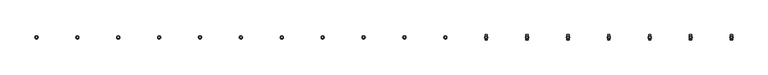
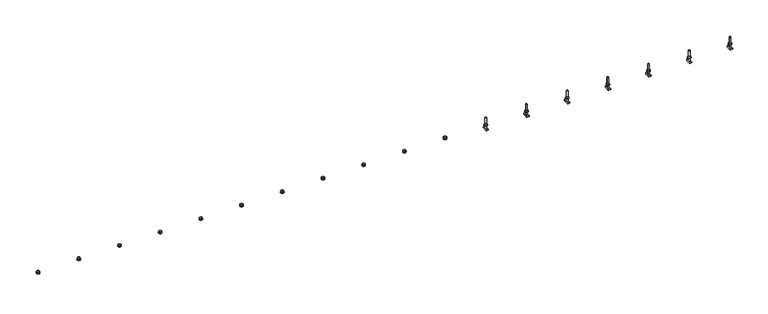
"""IFC4 building model written with IfcOpenShell, lengths in millimetres: fastener geometry, JTA-W JORDAHL® AnchorChannels : JTA-W L=6000 mm."""

from ifc_helpers import new_model, si_unit, point, frame, frame_2d, origin, place, context, project, spatial, polyline, circle_curve, trimmed, segment, composite_curve, outline, extrude, source, transform, mapped, element, save
from ifc_brep_helpers import plane_surface, cylinder_surface, advanced_brep


def fastener_254a00a1(model_context):
    return source(origin(), model_context, "Body", "SolidModel", [
        extrude(outline(polyline([(5617.1052632, -10.3923048), (5608.1052632, -5.1961524), (5608.1052632, 5.1961524), (5617.1052632, 10.3923048), (5626.1052632, 5.1961524), (5626.1052632, -5.1961524), (5617.1052632, -10.3923048)]), holes=[composite_curve([segment(trimmed(circle_curve(frame_2d((5617.1052632, 0.0)), 6.0), [point((5611.1052632, 0.0))], [point((5623.1052632, 0.0))], True, "CARTESIAN"), True, "CONTINUOUS"), segment(trimmed(circle_curve(frame_2d((5617.1052632, 0.0)), 6.0), [point((5623.1052632, 0.0))], [point((5611.1052632, 0.0))], True, "CARTESIAN"), True, "CONTINUOUS")], self_intersect=False)]), frame((0.0, 0.0, 17.5), z_axis=(0.0, 0.0, 1.0), x_axis=(1.0, 0.0, 0.0)), (0.0, 0.0, 1.0), 10.8),
        extrude(outline(composite_curve([segment(trimmed(circle_curve(frame_2d((5617.1052632, 0.0)), 12.0), [point((5605.1052632, 0.0))], [point((5629.1052632, 0.0))], False, "CARTESIAN"), True, "CONTINUOUS"), segment(trimmed(circle_curve(frame_2d((5617.1052632, 0.0)), 12.0), [point((5629.1052632, 0.0))], [point((5605.1052632, 0.0))], False, "CARTESIAN"), True, "CONTINUOUS")], self_intersect=False), holes=[composite_curve([segment(trimmed(circle_curve(frame_2d((5617.1052632, 0.0)), 6.5), [point((5610.6052632, 0.0))], [point((5623.6052632, 0.0))], True, "CARTESIAN"), True, "CONTINUOUS"), segment(trimmed(circle_curve(frame_2d((5617.1052632, 0.0)), 6.5), [point((5623.6052632, 0.0))], [point((5610.6052632, 0.0))], True, "CARTESIAN"), True, "CONTINUOUS")], self_intersect=False)]), frame((0.0, 0.0, 15.0), z_axis=(0.0, 0.0, 1.0), x_axis=(1.0, 0.0, 0.0)), (0.0, 0.0, 1.0), 2.5),
        extrude(outline(polyline([(5309.2105263, -10.3923048), (5300.2105263, -5.1961524), (5300.2105263, 5.1961524), (5309.2105263, 10.3923048), (5318.2105263, 5.1961524), (5318.2105263, -5.1961524), (5309.2105263, -10.3923048)]), holes=[composite_curve([segment(trimmed(circle_curve(frame_2d((5309.2105263, 0.0)), 6.0), [point((5303.2105263, 0.0))], [point((5315.2105263, 0.0))], True, "CARTESIAN"), True, "CONTINUOUS"), segment(trimmed(circle_curve(frame_2d((5309.2105263, 0.0)), 6.0), [point((5315.2105263, 0.0))], [point((5303.2105263, 0.0))], True, "CARTESIAN"), True, "CONTINUOUS")], self_intersect=False)]), frame((0.0, 0.0, 17.5), z_axis=(0.0, 0.0, 1.0), x_axis=(1.0, 0.0, 0.0)), (0.0, 0.0, 1.0), 10.8),
        extrude(outline(composite_curve([segment(trimmed(circle_curve(frame_2d((5309.2105263, 0.0)), 12.0), [point((5297.2105263, 0.0))], [point((5321.2105263, 0.0))], False, "CARTESIAN"), True, "CONTINUOUS"), segment(trimmed(circle_curve(frame_2d((5309.2105263, 0.0)), 12.0), [point((5321.2105263, 0.0))], [point((5297.2105263, 0.0))], False, "CARTESIAN"), True, "CONTINUOUS")], self_intersect=False), holes=[composite_curve([segment(trimmed(circle_curve(frame_2d((5309.2105263, 0.0)), 6.5), [point((5302.7105263, 0.0))], [point((5315.7105263, 0.0))], True, "CARTESIAN"), True, "CONTINUOUS"), segment(trimmed(circle_curve(frame_2d((5309.2105263, 0.0)), 6.5), [point((5315.7105263, 0.0))], [point((5302.7105263, 0.0))], True, "CARTESIAN"), True, "CONTINUOUS")], self_intersect=False)]), frame((0.0, 0.0, 15.0), z_axis=(0.0, 0.0, 1.0), x_axis=(1.0, 0.0, 0.0)), (0.0, 0.0, 1.0), 2.5),
        extrude(outline(polyline([(5001.3157895, -10.3923048), (4992.3157895, -5.1961524), (4992.3157895, 5.1961524), (5001.3157895, 10.3923048), (5010.3157895, 5.1961524), (5010.3157895, -5.1961524), (5001.3157895, -10.3923048)]), holes=[composite_curve([segment(trimmed(circle_curve(frame_2d((5001.3157895, 0.0)), 6.0), [point((4995.3157895, 0.0))], [point((5007.3157895, 0.0))], True, "CARTESIAN"), True, "CONTINUOUS"), segment(trimmed(circle_curve(frame_2d((5001.3157895, 0.0)), 6.0), [point((5007.3157895, 0.0))], [point((4995.3157895, 0.0))], True, "CARTESIAN"), True, "CONTINUOUS")], self_intersect=False)]), frame((0.0, 0.0, 17.5), z_axis=(0.0, 0.0, 1.0), x_axis=(1.0, 0.0, 0.0)), (0.0, 0.0, 1.0), 10.8),
        extrude(outline(composite_curve([segment(trimmed(circle_curve(frame_2d((5001.3157895, 0.0)), 12.0), [point((4989.3157895, 0.0))], [point((5013.3157895, 0.0))], False, "CARTESIAN"), True, "CONTINUOUS"), segment(trimmed(circle_curve(frame_2d((5001.3157895, 0.0)), 12.0), [point((5013.3157895, 0.0))], [point((4989.3157895, 0.0))], False, "CARTESIAN"), True, "CONTINUOUS")], self_intersect=False), holes=[composite_curve([segment(trimmed(circle_curve(frame_2d((5001.3157895, 0.0)), 6.5), [point((4994.8157895, 0.0))], [point((5007.8157895, 0.0))], True, "CARTESIAN"), True, "CONTINUOUS"), segment(trimmed(circle_curve(frame_2d((5001.3157895, 0.0)), 6.5), [point((5007.8157895, 0.0))], [point((4994.8157895, 0.0))], True, "CARTESIAN"), True, "CONTINUOUS")], self_intersect=False)]), frame((0.0, 0.0, 15.0), z_axis=(0.0, 0.0, 1.0), x_axis=(1.0, 0.0, 0.0)), (0.0, 0.0, 1.0), 2.5),
        extrude(outline(polyline([(4693.4210526, -10.3923048), (4684.4210526, -5.1961524), (4684.4210526, 5.1961524), (4693.4210526, 10.3923048), (4702.4210526, 5.1961524), (4702.4210526, -5.1961524), (4693.4210526, -10.3923048)]), holes=[composite_curve([segment(trimmed(circle_curve(frame_2d((4693.4210526, 0.0)), 6.0), [point((4687.4210526, 0.0))], [point((4699.4210526, 0.0))], True, "CARTESIAN"), True, "CONTINUOUS"), segment(trimmed(circle_curve(frame_2d((4693.4210526, 0.0)), 6.0), [point((4699.4210526, 0.0))], [point((4687.4210526, 0.0))], True, "CARTESIAN"), True, "CONTINUOUS")], self_intersect=False)]), frame((0.0, 0.0, 17.5), z_axis=(0.0, 0.0, 1.0), x_axis=(1.0, 0.0, 0.0)), (0.0, 0.0, 1.0), 10.8),
        extrude(outline(composite_curve([segment(trimmed(circle_curve(frame_2d((4693.4210526, 0.0)), 12.0), [point((4681.4210526, 0.0))], [point((4705.4210526, 0.0))], False, "CARTESIAN"), True, "CONTINUOUS"), segment(trimmed(circle_curve(frame_2d((4693.4210526, 0.0)), 12.0), [point((4705.4210526, 0.0))], [point((4681.4210526, 0.0))], False, "CARTESIAN"), True, "CONTINUOUS")], self_intersect=False), holes=[composite_curve([segment(trimmed(circle_curve(frame_2d((4693.4210526, 0.0)), 6.5), [point((4686.9210526, 0.0))], [point((4699.9210526, 0.0))], True, "CARTESIAN"), True, "CONTINUOUS"), segment(trimmed(circle_curve(frame_2d((4693.4210526, 0.0)), 6.5), [point((4699.9210526, 0.0))], [point((4686.9210526, 0.0))], True, "CARTESIAN"), True, "CONTINUOUS")], self_intersect=False)]), frame((0.0, 0.0, 15.0), z_axis=(0.0, 0.0, 1.0), x_axis=(1.0, 0.0, 0.0)), (0.0, 0.0, 1.0), 2.5),
        extrude(outline(polyline([(4385.5263158, -10.3923048), (4376.5263158, -5.1961524), (4376.5263158, 5.1961524), (4385.5263158, 10.3923048), (4394.5263158, 5.1961524), (4394.5263158, -5.1961524), (4385.5263158, -10.3923048)]), holes=[composite_curve([segment(trimmed(circle_curve(frame_2d((4385.5263158, 0.0)), 6.0), [point((4379.5263158, 0.0))], [point((4391.5263158, 0.0))], True, "CARTESIAN"), True, "CONTINUOUS"), segment(trimmed(circle_curve(frame_2d((4385.5263158, 0.0)), 6.0), [point((4391.5263158, 0.0))], [point((4379.5263158, 0.0))], True, "CARTESIAN"), True, "CONTINUOUS")], self_intersect=False)]), frame((0.0, 0.0, 17.5), z_axis=(0.0, 0.0, 1.0), x_axis=(1.0, 0.0, 0.0)), (0.0, 0.0, 1.0), 10.8),
        extrude(outline(composite_curve([segment(trimmed(circle_curve(frame_2d((4385.5263158, 0.0)), 12.0), [point((4373.5263158, 0.0))], [point((4397.5263158, 0.0))], False, "CARTESIAN"), True, "CONTINUOUS"), segment(trimmed(circle_curve(frame_2d((4385.5263158, 0.0)), 12.0), [point((4397.5263158, 0.0))], [point((4373.5263158, 0.0))], False, "CARTESIAN"), True, "CONTINUOUS")], self_intersect=False), holes=[composite_curve([segment(trimmed(circle_curve(frame_2d((4385.5263158, 0.0)), 6.5), [point((4379.0263158, 0.0))], [point((4392.0263158, 0.0))], True, "CARTESIAN"), True, "CONTINUOUS"), segment(trimmed(circle_curve(frame_2d((4385.5263158, 0.0)), 6.5), [point((4392.0263158, 0.0))], [point((4379.0263158, 0.0))], True, "CARTESIAN"), True, "CONTINUOUS")], self_intersect=False)]), frame((0.0, 0.0, 15.0), z_axis=(0.0, 0.0, 1.0), x_axis=(1.0, 0.0, 0.0)), (0.0, 0.0, 1.0), 2.5),
        extrude(outline(polyline([(4077.6315789, -10.3923048), (4068.6315789, -5.1961524), (4068.6315789, 5.1961524), (4077.6315789, 10.3923048), (4086.6315789, 5.1961524), (4086.6315789, -5.1961524), (4077.6315789, -10.3923048)]), holes=[composite_curve([segment(trimmed(circle_curve(frame_2d((4077.6315789, 0.0)), 6.0), [point((4071.6315789, 0.0))], [point((4083.6315789, 0.0))], True, "CARTESIAN"), True, "CONTINUOUS"), segment(trimmed(circle_curve(frame_2d((4077.6315789, 0.0)), 6.0), [point((4083.6315789, 0.0))], [point((4071.6315789, 0.0))], True, "CARTESIAN"), True, "CONTINUOUS")], self_intersect=False)]), frame((0.0, 0.0, 17.5), z_axis=(0.0, 0.0, 1.0), x_axis=(1.0, 0.0, 0.0)), (0.0, 0.0, 1.0), 10.8),
        extrude(outline(composite_curve([segment(trimmed(circle_curve(frame_2d((4077.6315789, 0.0)), 12.0), [point((4065.6315789, 0.0))], [point((4089.6315789, 0.0))], False, "CARTESIAN"), True, "CONTINUOUS"), segment(trimmed(circle_curve(frame_2d((4077.6315789, 0.0)), 12.0), [point((4089.6315789, 0.0))], [point((4065.6315789, 0.0))], False, "CARTESIAN"), True, "CONTINUOUS")], self_intersect=False), holes=[composite_curve([segment(trimmed(circle_curve(frame_2d((4077.6315789, 0.0)), 6.5), [point((4071.1315789, 0.0))], [point((4084.1315789, 0.0))], True, "CARTESIAN"), True, "CONTINUOUS"), segment(trimmed(circle_curve(frame_2d((4077.6315789, 0.0)), 6.5), [point((4084.1315789, 0.0))], [point((4071.1315789, 0.0))], True, "CARTESIAN"), True, "CONTINUOUS")], self_intersect=False)]), frame((0.0, 0.0, 15.0), z_axis=(0.0, 0.0, 1.0), x_axis=(1.0, 0.0, 0.0)), (0.0, 0.0, 1.0), 2.5),
        extrude(outline(polyline([(3769.7368421, -10.3923048), (3760.7368421, -5.1961524), (3760.7368421, 5.1961524), (3769.7368421, 10.3923048), (3778.7368421, 5.1961524), (3778.7368421, -5.1961524), (3769.7368421, -10.3923048)]), holes=[composite_curve([segment(trimmed(circle_curve(frame_2d((3769.7368421, 0.0)), 6.0), [point((3763.7368421, 0.0))], [point((3775.7368421, 0.0))], True, "CARTESIAN"), True, "CONTINUOUS"), segment(trimmed(circle_curve(frame_2d((3769.7368421, 0.0)), 6.0), [point((3775.7368421, 0.0))], [point((3763.7368421, 0.0))], True, "CARTESIAN"), True, "CONTINUOUS")], self_intersect=False)]), frame((0.0, 0.0, 17.5), z_axis=(0.0, 0.0, 1.0), x_axis=(1.0, 0.0, 0.0)), (0.0, 0.0, 1.0), 10.8),
        extrude(outline(composite_curve([segment(trimmed(circle_curve(frame_2d((3769.7368421, 0.0)), 12.0), [point((3757.7368421, 0.0))], [point((3781.7368421, 0.0))], False, "CARTESIAN"), True, "CONTINUOUS"), segment(trimmed(circle_curve(frame_2d((3769.7368421, 0.0)), 12.0), [point((3781.7368421, 0.0))], [point((3757.7368421, 0.0))], False, "CARTESIAN"), True, "CONTINUOUS")], self_intersect=False), holes=[composite_curve([segment(trimmed(circle_curve(frame_2d((3769.7368421, 0.0)), 6.5), [point((3763.2368421, 0.0))], [point((3776.2368421, 0.0))], True, "CARTESIAN"), True, "CONTINUOUS"), segment(trimmed(circle_curve(frame_2d((3769.7368421, 0.0)), 6.5), [point((3776.2368421, 0.0))], [point((3763.2368421, 0.0))], True, "CARTESIAN"), True, "CONTINUOUS")], self_intersect=False)]), frame((0.0, 0.0, 15.0), z_axis=(0.0, 0.0, 1.0), x_axis=(1.0, 0.0, 0.0)), (0.0, 0.0, 1.0), 2.5),
        extrude(outline(polyline([(3461.8421053, -10.3923048), (3452.8421053, -5.1961524), (3452.8421053, 5.1961524), (3461.8421053, 10.3923048), (3470.8421053, 5.1961524), (3470.8421053, -5.1961524), (3461.8421053, -10.3923048)]), holes=[composite_curve([segment(trimmed(circle_curve(frame_2d((3461.8421053, 0.0)), 6.0), [point((3455.8421053, 0.0))], [point((3467.8421053, 0.0))], True, "CARTESIAN"), True, "CONTINUOUS"), segment(trimmed(circle_curve(frame_2d((3461.8421053, 0.0)), 6.0), [point((3467.8421053, 0.0))], [point((3455.8421053, 0.0))], True, "CARTESIAN"), True, "CONTINUOUS")], self_intersect=False)]), frame((0.0, 0.0, 17.5), z_axis=(0.0, 0.0, 1.0), x_axis=(1.0, 0.0, 0.0)), (0.0, 0.0, 1.0), 10.8),
        extrude(outline(composite_curve([segment(trimmed(circle_curve(frame_2d((3461.8421053, 0.0)), 12.0), [point((3449.8421053, 0.0))], [point((3473.8421053, 0.0))], False, "CARTESIAN"), True, "CONTINUOUS"), segment(trimmed(circle_curve(frame_2d((3461.8421053, 0.0)), 12.0), [point((3473.8421053, 0.0))], [point((3449.8421053, 0.0))], False, "CARTESIAN"), True, "CONTINUOUS")], self_intersect=False), holes=[composite_curve([segment(trimmed(circle_curve(frame_2d((3461.8421053, 0.0)), 6.5), [point((3455.3421053, 0.0))], [point((3468.3421053, 0.0))], True, "CARTESIAN"), True, "CONTINUOUS"), segment(trimmed(circle_curve(frame_2d((3461.8421053, 0.0)), 6.5), [point((3468.3421053, 0.0))], [point((3455.3421053, 0.0))], True, "CARTESIAN"), True, "CONTINUOUS")], self_intersect=False)]), frame((0.0, 0.0, 15.0), z_axis=(0.0, 0.0, 1.0), x_axis=(1.0, 0.0, 0.0)), (0.0, 0.0, 1.0), 2.5),
        extrude(outline(polyline([(3153.9473684, -10.3923048), (3144.9473684, -5.1961524), (3144.9473684, 5.1961524), (3153.9473684, 10.3923048), (3162.9473684, 5.1961524), (3162.9473684, -5.1961524), (3153.9473684, -10.3923048)]), holes=[composite_curve([segment(trimmed(circle_curve(frame_2d((3153.9473684, 0.0)), 6.0), [point((3147.9473684, 0.0))], [point((3159.9473684, 0.0))], True, "CARTESIAN"), True, "CONTINUOUS"), segment(trimmed(circle_curve(frame_2d((3153.9473684, 0.0)), 6.0), [point((3159.9473684, 0.0))], [point((3147.9473684, 0.0))], True, "CARTESIAN"), True, "CONTINUOUS")], self_intersect=False)]), frame((0.0, 0.0, 17.5), z_axis=(0.0, 0.0, 1.0), x_axis=(1.0, 0.0, 0.0)), (0.0, 0.0, 1.0), 10.8),
        extrude(outline(composite_curve([segment(trimmed(circle_curve(frame_2d((3153.9473684, 0.0)), 12.0), [point((3141.9473684, 0.0))], [point((3165.9473684, 0.0))], False, "CARTESIAN"), True, "CONTINUOUS"), segment(trimmed(circle_curve(frame_2d((3153.9473684, 0.0)), 12.0), [point((3165.9473684, 0.0))], [point((3141.9473684, 0.0))], False, "CARTESIAN"), True, "CONTINUOUS")], self_intersect=False), holes=[composite_curve([segment(trimmed(circle_curve(frame_2d((3153.9473684, 0.0)), 6.5), [point((3147.4473684, 0.0))], [point((3160.4473684, 0.0))], True, "CARTESIAN"), True, "CONTINUOUS"), segment(trimmed(circle_curve(frame_2d((3153.9473684, 0.0)), 6.5), [point((3160.4473684, 0.0))], [point((3147.4473684, 0.0))], True, "CARTESIAN"), True, "CONTINUOUS")], self_intersect=False)]), frame((0.0, 0.0, 15.0), z_axis=(0.0, 0.0, 1.0), x_axis=(1.0, 0.0, 0.0)), (0.0, 0.0, 1.0), 2.5),
        extrude(outline(polyline([(2846.0526316, -10.3923048), (2837.0526316, -5.1961524), (2837.0526316, 5.1961524), (2846.0526316, 10.3923048), (2855.0526316, 5.1961524), (2855.0526316, -5.1961524), (2846.0526316, -10.3923048)]), holes=[composite_curve([segment(trimmed(circle_curve(frame_2d((2846.0526316, 0.0)), 6.0), [point((2840.0526316, 0.0))], [point((2852.0526316, 0.0))], True, "CARTESIAN"), True, "CONTINUOUS"), segment(trimmed(circle_curve(frame_2d((2846.0526316, 0.0)), 6.0), [point((2852.0526316, 0.0))], [point((2840.0526316, 0.0))], True, "CARTESIAN"), True, "CONTINUOUS")], self_intersect=False)]), frame((0.0, 0.0, 17.5), z_axis=(0.0, 0.0, 1.0), x_axis=(1.0, 0.0, 0.0)), (0.0, 0.0, 1.0), 10.8),
        extrude(outline(composite_curve([segment(trimmed(circle_curve(frame_2d((2846.0526316, 0.0)), 12.0), [point((2834.0526316, 0.0))], [point((2858.0526316, 0.0))], False, "CARTESIAN"), True, "CONTINUOUS"), segment(trimmed(circle_curve(frame_2d((2846.0526316, 0.0)), 12.0), [point((2858.0526316, 0.0))], [point((2834.0526316, 0.0))], False, "CARTESIAN"), True, "CONTINUOUS")], self_intersect=False), holes=[composite_curve([segment(trimmed(circle_curve(frame_2d((2846.0526316, 0.0)), 6.5), [point((2839.5526316, 0.0))], [point((2852.5526316, 0.0))], True, "CARTESIAN"), True, "CONTINUOUS"), segment(trimmed(circle_curve(frame_2d((2846.0526316, 0.0)), 6.5), [point((2852.5526316, 0.0))], [point((2839.5526316, 0.0))], True, "CARTESIAN"), True, "CONTINUOUS")], self_intersect=False)]), frame((0.0, 0.0, 15.0), z_axis=(0.0, 0.0, 1.0), x_axis=(1.0, 0.0, 0.0)), (0.0, 0.0, 1.0), 2.5),
        extrude(outline(polyline([(2538.1578947, -10.3923048), (2529.1578947, -5.1961524), (2529.1578947, 5.1961524), (2538.1578947, 10.3923048), (2547.1578947, 5.1961524), (2547.1578947, -5.1961524), (2538.1578947, -10.3923048)]), holes=[composite_curve([segment(trimmed(circle_curve(frame_2d((2538.1578947, 0.0)), 6.0), [point((2532.1578947, 0.0))], [point((2544.1578947, 0.0))], True, "CARTESIAN"), True, "CONTINUOUS"), segment(trimmed(circle_curve(frame_2d((2538.1578947, 0.0)), 6.0), [point((2544.1578947, 0.0))], [point((2532.1578947, 0.0))], True, "CARTESIAN"), True, "CONTINUOUS")], self_intersect=False)]), frame((0.0, 0.0, 17.5), z_axis=(0.0, 0.0, 1.0), x_axis=(1.0, 0.0, 0.0)), (0.0, 0.0, 1.0), 10.8),
        extrude(outline(composite_curve([segment(trimmed(circle_curve(frame_2d((2538.1578947, 0.0)), 12.0), [point((2526.1578947, 0.0))], [point((2550.1578947, 0.0))], False, "CARTESIAN"), True, "CONTINUOUS"), segment(trimmed(circle_curve(frame_2d((2538.1578947, 0.0)), 12.0), [point((2550.1578947, 0.0))], [point((2526.1578947, 0.0))], False, "CARTESIAN"), True, "CONTINUOUS")], self_intersect=False), holes=[composite_curve([segment(trimmed(circle_curve(frame_2d((2538.1578947, 0.0)), 6.5), [point((2531.6578947, 0.0))], [point((2544.6578947, 0.0))], True, "CARTESIAN"), True, "CONTINUOUS"), segment(trimmed(circle_curve(frame_2d((2538.1578947, 0.0)), 6.5), [point((2544.6578947, 0.0))], [point((2531.6578947, 0.0))], True, "CARTESIAN"), True, "CONTINUOUS")], self_intersect=False)]), frame((0.0, 0.0, 15.0), z_axis=(0.0, 0.0, 1.0), x_axis=(1.0, 0.0, 0.0)), (0.0, 0.0, 1.0), 2.5),
        extrude(outline(polyline([(2230.2631579, -10.3923048), (2221.2631579, -5.1961524), (2221.2631579, 5.1961524), (2230.2631579, 10.3923048), (2239.2631579, 5.1961524), (2239.2631579, -5.1961524), (2230.2631579, -10.3923048)]), holes=[composite_curve([segment(trimmed(circle_curve(frame_2d((2230.2631579, 0.0)), 6.0), [point((2224.2631579, 0.0))], [point((2236.2631579, 0.0))], True, "CARTESIAN"), True, "CONTINUOUS"), segment(trimmed(circle_curve(frame_2d((2230.2631579, 0.0)), 6.0), [point((2236.2631579, 0.0))], [point((2224.2631579, 0.0))], True, "CARTESIAN"), True, "CONTINUOUS")], self_intersect=False)]), frame((0.0, 0.0, 17.5), z_axis=(0.0, 0.0, 1.0), x_axis=(1.0, 0.0, 0.0)), (0.0, 0.0, 1.0), 10.8),
        extrude(outline(composite_curve([segment(trimmed(circle_curve(frame_2d((2230.2631579, 0.0)), 12.0), [point((2218.2631579, 0.0))], [point((2242.2631579, 0.0))], False, "CARTESIAN"), True, "CONTINUOUS"), segment(trimmed(circle_curve(frame_2d((2230.2631579, 0.0)), 12.0), [point((2242.2631579, 0.0))], [point((2218.2631579, 0.0))], False, "CARTESIAN"), True, "CONTINUOUS")], self_intersect=False), holes=[composite_curve([segment(trimmed(circle_curve(frame_2d((2230.2631579, 0.0)), 6.5), [point((2223.7631579, 0.0))], [point((2236.7631579, 0.0))], True, "CARTESIAN"), True, "CONTINUOUS"), segment(trimmed(circle_curve(frame_2d((2230.2631579, 0.0)), 6.5), [point((2236.7631579, 0.0))], [point((2223.7631579, 0.0))], True, "CARTESIAN"), True, "CONTINUOUS")], self_intersect=False)]), frame((0.0, 0.0, 15.0), z_axis=(0.0, 0.0, 1.0), x_axis=(1.0, 0.0, 0.0)), (0.0, 0.0, 1.0), 2.5),
        extrude(outline(polyline([(1922.3684211, -10.3923048), (1913.3684211, -5.1961524), (1913.3684211, 5.1961524), (1922.3684211, 10.3923048), (1931.3684211, 5.1961524), (1931.3684211, -5.1961524), (1922.3684211, -10.3923048)]), holes=[composite_curve([segment(trimmed(circle_curve(frame_2d((1922.3684211, 0.0)), 6.0), [point((1916.3684211, 0.0))], [point((1928.3684211, 0.0))], True, "CARTESIAN"), True, "CONTINUOUS"), segment(trimmed(circle_curve(frame_2d((1922.3684211, 0.0)), 6.0), [point((1928.3684211, 0.0))], [point((1916.3684211, 0.0))], True, "CARTESIAN"), True, "CONTINUOUS")], self_intersect=False)]), frame((0.0, 0.0, 17.5), z_axis=(0.0, 0.0, 1.0), x_axis=(1.0, 0.0, 0.0)), (0.0, 0.0, 1.0), 10.8),
        extrude(outline(composite_curve([segment(trimmed(circle_curve(frame_2d((1922.3684211, 0.0)), 12.0), [point((1910.3684211, 0.0))], [point((1934.3684211, 0.0))], False, "CARTESIAN"), True, "CONTINUOUS"), segment(trimmed(circle_curve(frame_2d((1922.3684211, 0.0)), 12.0), [point((1934.3684211, 0.0))], [point((1910.3684211, 0.0))], False, "CARTESIAN"), True, "CONTINUOUS")], self_intersect=False), holes=[composite_curve([segment(trimmed(circle_curve(frame_2d((1922.3684211, 0.0)), 6.5), [point((1915.8684211, 0.0))], [point((1928.8684211, 0.0))], True, "CARTESIAN"), True, "CONTINUOUS"), segment(trimmed(circle_curve(frame_2d((1922.3684211, 0.0)), 6.5), [point((1928.8684211, 0.0))], [point((1915.8684211, 0.0))], True, "CARTESIAN"), True, "CONTINUOUS")], self_intersect=False)]), frame((0.0, 0.0, 15.0), z_axis=(0.0, 0.0, 1.0), x_axis=(1.0, 0.0, 0.0)), (0.0, 0.0, 1.0), 2.5),
        extrude(outline(polyline([(1614.4736842, -10.3923048), (1605.4736842, -5.1961524), (1605.4736842, 5.1961524), (1614.4736842, 10.3923048), (1623.4736842, 5.1961524), (1623.4736842, -5.1961524), (1614.4736842, -10.3923048)]), holes=[composite_curve([segment(trimmed(circle_curve(frame_2d((1614.4736842, 0.0)), 6.0), [point((1608.4736842, 0.0))], [point((1620.4736842, 0.0))], True, "CARTESIAN"), True, "CONTINUOUS"), segment(trimmed(circle_curve(frame_2d((1614.4736842, 0.0)), 6.0), [point((1620.4736842, 0.0))], [point((1608.4736842, 0.0))], True, "CARTESIAN"), True, "CONTINUOUS")], self_intersect=False)]), frame((0.0, 0.0, 17.5), z_axis=(0.0, 0.0, 1.0), x_axis=(1.0, 0.0, 0.0)), (0.0, 0.0, 1.0), 10.8),
        extrude(outline(composite_curve([segment(trimmed(circle_curve(frame_2d((1614.4736842, 0.0)), 12.0), [point((1602.4736842, 0.0))], [point((1626.4736842, 0.0))], False, "CARTESIAN"), True, "CONTINUOUS"), segment(trimmed(circle_curve(frame_2d((1614.4736842, 0.0)), 12.0), [point((1626.4736842, 0.0))], [point((1602.4736842, 0.0))], False, "CARTESIAN"), True, "CONTINUOUS")], self_intersect=False), holes=[composite_curve([segment(trimmed(circle_curve(frame_2d((1614.4736842, 0.0)), 6.5), [point((1607.9736842, 0.0))], [point((1620.9736842, 0.0))], True, "CARTESIAN"), True, "CONTINUOUS"), segment(trimmed(circle_curve(frame_2d((1614.4736842, 0.0)), 6.5), [point((1620.9736842, 0.0))], [point((1607.9736842, 0.0))], True, "CARTESIAN"), True, "CONTINUOUS")], self_intersect=False)]), frame((0.0, 0.0, 15.0), z_axis=(0.0, 0.0, 1.0), x_axis=(1.0, 0.0, 0.0)), (0.0, 0.0, 1.0), 2.5),
        extrude(outline(polyline([(1306.5789474, -10.3923048), (1297.5789474, -5.1961524), (1297.5789474, 5.1961524), (1306.5789474, 10.3923048), (1315.5789474, 5.1961524), (1315.5789474, -5.1961524), (1306.5789474, -10.3923048)]), holes=[composite_curve([segment(trimmed(circle_curve(frame_2d((1306.5789474, 0.0)), 6.0), [point((1300.5789474, 0.0))], [point((1312.5789474, 0.0))], True, "CARTESIAN"), True, "CONTINUOUS"), segment(trimmed(circle_curve(frame_2d((1306.5789474, 0.0)), 6.0), [point((1312.5789474, 0.0))], [point((1300.5789474, 0.0))], True, "CARTESIAN"), True, "CONTINUOUS")], self_intersect=False)]), frame((0.0, 0.0, 17.5), z_axis=(0.0, 0.0, 1.0), x_axis=(1.0, 0.0, 0.0)), (0.0, 0.0, 1.0), 10.8),
        extrude(outline(composite_curve([segment(trimmed(circle_curve(frame_2d((1306.5789474, 0.0)), 12.0), [point((1294.5789474, 0.0))], [point((1318.5789474, 0.0))], False, "CARTESIAN"), True, "CONTINUOUS"), segment(trimmed(circle_curve(frame_2d((1306.5789474, 0.0)), 12.0), [point((1318.5789474, 0.0))], [point((1294.5789474, 0.0))], False, "CARTESIAN"), True, "CONTINUOUS")], self_intersect=False), holes=[composite_curve([segment(trimmed(circle_curve(frame_2d((1306.5789474, 0.0)), 6.5), [point((1300.0789474, 0.0))], [point((1313.0789474, 0.0))], True, "CARTESIAN"), True, "CONTINUOUS"), segment(trimmed(circle_curve(frame_2d((1306.5789474, 0.0)), 6.5), [point((1313.0789474, 0.0))], [point((1300.0789474, 0.0))], True, "CARTESIAN"), True, "CONTINUOUS")], self_intersect=False)]), frame((0.0, 0.0, 15.0), z_axis=(0.0, 0.0, 1.0), x_axis=(1.0, 0.0, 0.0)), (0.0, 0.0, 1.0), 2.5),
        extrude(outline(polyline([(998.6842105, -10.3923048), (989.6842105, -5.1961524), (989.6842105, 5.1961524), (998.6842105, 10.3923048), (1007.6842105, 5.1961524), (1007.6842105, -5.1961524), (998.6842105, -10.3923048)]), holes=[composite_curve([segment(trimmed(circle_curve(frame_2d((998.6842105, 0.0)), 6.0), [point((992.6842105, 0.0))], [point((1004.6842105, 0.0))], True, "CARTESIAN"), True, "CONTINUOUS"), segment(trimmed(circle_curve(frame_2d((998.6842105, 0.0)), 6.0), [point((1004.6842105, 0.0))], [point((992.6842105, 0.0))], True, "CARTESIAN"), True, "CONTINUOUS")], self_intersect=False)]), frame((0.0, 0.0, 17.5), z_axis=(0.0, 0.0, 1.0), x_axis=(1.0, 0.0, 0.0)), (0.0, 0.0, 1.0), 10.8),
        extrude(outline(composite_curve([segment(trimmed(circle_curve(frame_2d((998.6842105, 0.0)), 12.0), [point((986.6842105, 0.0))], [point((1010.6842105, 0.0))], False, "CARTESIAN"), True, "CONTINUOUS"), segment(trimmed(circle_curve(frame_2d((998.6842105, 0.0)), 12.0), [point((1010.6842105, 0.0))], [point((986.6842105, 0.0))], False, "CARTESIAN"), True, "CONTINUOUS")], self_intersect=False), holes=[composite_curve([segment(trimmed(circle_curve(frame_2d((998.6842105, 0.0)), 6.5), [point((992.1842105, 0.0))], [point((1005.1842105, 0.0))], True, "CARTESIAN"), True, "CONTINUOUS"), segment(trimmed(circle_curve(frame_2d((998.6842105, 0.0)), 6.5), [point((1005.1842105, 0.0))], [point((992.1842105, 0.0))], True, "CARTESIAN"), True, "CONTINUOUS")], self_intersect=False)]), frame((0.0, 0.0, 15.0), z_axis=(0.0, 0.0, 1.0), x_axis=(1.0, 0.0, 0.0)), (0.0, 0.0, 1.0), 2.5),
        extrude(outline(polyline([(690.7894737, -10.3923048), (681.7894737, -5.1961524), (681.7894737, 5.1961524), (690.7894737, 10.3923048), (699.7894737, 5.1961524), (699.7894737, -5.1961524), (690.7894737, -10.3923048)]), holes=[composite_curve([segment(trimmed(circle_curve(frame_2d((690.7894737, 0.0)), 6.0), [point((684.7894737, 0.0))], [point((696.7894737, 0.0))], True, "CARTESIAN"), True, "CONTINUOUS"), segment(trimmed(circle_curve(frame_2d((690.7894737, 0.0)), 6.0), [point((696.7894737, 0.0))], [point((684.7894737, 0.0))], True, "CARTESIAN"), True, "CONTINUOUS")], self_intersect=False)]), frame((0.0, 0.0, 17.5), z_axis=(0.0, 0.0, 1.0), x_axis=(1.0, 0.0, 0.0)), (0.0, 0.0, 1.0), 10.8),
        extrude(outline(composite_curve([segment(trimmed(circle_curve(frame_2d((690.7894737, 0.0)), 12.0), [point((678.7894737, 0.0))], [point((702.7894737, 0.0))], False, "CARTESIAN"), True, "CONTINUOUS"), segment(trimmed(circle_curve(frame_2d((690.7894737, 0.0)), 12.0), [point((702.7894737, 0.0))], [point((678.7894737, 0.0))], False, "CARTESIAN"), True, "CONTINUOUS")], self_intersect=False), holes=[composite_curve([segment(trimmed(circle_curve(frame_2d((690.7894737, 0.0)), 6.5), [point((684.2894737, 0.0))], [point((697.2894737, 0.0))], True, "CARTESIAN"), True, "CONTINUOUS"), segment(trimmed(circle_curve(frame_2d((690.7894737, 0.0)), 6.5), [point((697.2894737, 0.0))], [point((684.2894737, 0.0))], True, "CARTESIAN"), True, "CONTINUOUS")], self_intersect=False)]), frame((0.0, 0.0, 15.0), z_axis=(0.0, 0.0, 1.0), x_axis=(1.0, 0.0, 0.0)), (0.0, 0.0, 1.0), 2.5),
        extrude(outline(polyline([(382.8947368, -10.3923048), (373.8947368, -5.1961524), (373.8947368, 5.1961524), (382.8947368, 10.3923048), (391.8947368, 5.1961524), (391.8947368, -5.1961524), (382.8947368, -10.3923048)]), holes=[composite_curve([segment(trimmed(circle_curve(frame_2d((382.8947368, 0.0)), 6.0), [point((376.8947368, 0.0))], [point((388.8947368, 0.0))], True, "CARTESIAN"), True, "CONTINUOUS"), segment(trimmed(circle_curve(frame_2d((382.8947368, 0.0)), 6.0), [point((388.8947368, 0.0))], [point((376.8947368, 0.0))], True, "CARTESIAN"), True, "CONTINUOUS")], self_intersect=False)]), frame((0.0, 0.0, 17.5), z_axis=(0.0, 0.0, 1.0), x_axis=(1.0, 0.0, 0.0)), (0.0, 0.0, 1.0), 10.8),
        extrude(outline(composite_curve([segment(trimmed(circle_curve(frame_2d((382.8947368, 0.0)), 12.0), [point((370.8947368, 0.0))], [point((394.8947368, 0.0))], False, "CARTESIAN"), True, "CONTINUOUS"), segment(trimmed(circle_curve(frame_2d((382.8947368, 0.0)), 12.0), [point((394.8947368, 0.0))], [point((370.8947368, 0.0))], False, "CARTESIAN"), True, "CONTINUOUS")], self_intersect=False), holes=[composite_curve([segment(trimmed(circle_curve(frame_2d((382.8947368, 0.0)), 6.5), [point((376.3947368, 0.0))], [point((389.3947368, 0.0))], True, "CARTESIAN"), True, "CONTINUOUS"), segment(trimmed(circle_curve(frame_2d((382.8947368, 0.0)), 6.5), [point((389.3947368, 0.0))], [point((376.3947368, 0.0))], True, "CARTESIAN"), True, "CONTINUOUS")], self_intersect=False)]), frame((0.0, 0.0, 15.0), z_axis=(0.0, 0.0, 1.0), x_axis=(1.0, 0.0, 0.0)), (0.0, 0.0, 1.0), 2.5),
        advanced_brep(
        [(5625.6052632, -20.7, -6.5), (5625.6052632, -20.7, -16.5), (5625.6052632, 20.7, -16.5), (5625.6052632, 20.7, -6.5), (5608.6052632, -20.7, -6.5), (5608.6052632, 20.7, -6.5), (5608.6052632, 20.7, -16.5), (5608.6052632, -20.7, -16.5), (5623.1052632, 0.0, -6.5), (5611.1052632, 0.0, -6.5), (5611.1052632, 0.0, 73.5), (5623.1052632, 0.0, 73.5)],
        [
            (0, 1),
            (1, 2),
            (2, 3),
            (3, 0),
            (4, 5),
            (5, 6),
            (6, 7),
            (7, 4),
            (3, 5),
            (4, 0),
            (8, 9, circle_curve(frame((5617.1052632, 0.0, -6.5), z_axis=(0.0, 0.0, -1.0), x_axis=(1.0, 0.0, 0.0)), 6.0)),
            (9, 8, circle_curve(frame((5617.1052632, 0.0, -6.5), z_axis=(0.0, 0.0, -1.0), x_axis=(1.0, 0.0, 0.0)), 6.0)),
            (2, 6),
            (1, 7),
            (10, 11, circle_curve(frame((5617.1052632, 0.0, 73.5), z_axis=(0.0, 0.0, 1.0), x_axis=(1.0, 0.0, 0.0)), 6.0)),
            (11, 10, circle_curve(frame((5617.1052632, 0.0, 73.5), z_axis=(0.0, 0.0, 1.0), x_axis=(1.0, 0.0, 0.0)), 6.0)),
            (11, 8),
            (9, 10),
        ],
        [
            plane_surface(frame((5625.6052632, 20.7, -6.5), z_axis=(1.0, 0.0, 0.0), x_axis=(0.0, 1.0, 0.0))),
            plane_surface(frame((5608.6052632, 20.7, -6.5), z_axis=(-1.0, 0.0, 0.0), x_axis=(0.0, -1.0, 0.0))),
            plane_surface(frame((5625.6052632, -20.7, -6.5), z_axis=(0.0, 0.0, 1.0), x_axis=(-1.0, 0.0, 0.0))),
            plane_surface(frame((5625.6052632, 20.7, -6.5), z_axis=(0.0, 1.0, 0.0), x_axis=(-1.0, 0.0, 0.0))),
            plane_surface(frame((5625.6052632, 20.7, -16.5), z_axis=(0.0, 0.0, -1.0), x_axis=(-1.0, 0.0, 0.0))),
            plane_surface(frame((5625.6052632, -20.7, -16.5), z_axis=(0.0, -1.0, 0.0), x_axis=(-1.0, 0.0, 0.0))),
            plane_surface(frame((5623.1052632, 0.0, 73.5), z_axis=(0.0, 0.0, 1.0), x_axis=(0.0, -1.0, 0.0))),
            cylinder_surface(frame((5617.1052632, 0.0, -6.5), z_axis=(0.0, 0.0, 1.0), x_axis=(1.0, 0.0, 0.0)), 6.0),
        ],
        [
            (0, [[1, 2, 3, 4]]),
            (1, [[5, 6, 7, 8]]),
            (2, [[9, -5, 10, -4], [11, 12]]),
            (3, [[13, -6, -9, -3]]),
            (4, [[14, -7, -13, -2]]),
            (5, [[-10, -8, -14, -1]]),
            (6, [[15, 16]]),
            (7, [[17, -12, 18, -16]]),
            (7, [[-18, -11, -17, -15]]),
        ],
    ),
        advanced_brep(
        [(5317.7105263, -20.7, -6.5), (5317.7105263, -20.7, -16.5), (5317.7105263, 20.7, -16.5), (5317.7105263, 20.7, -6.5), (5300.7105263, -20.7, -6.5), (5300.7105263, 20.7, -6.5), (5300.7105263, 20.7, -16.5), (5300.7105263, -20.7, -16.5), (5315.2105263, 0.0, -6.5), (5303.2105263, 0.0, -6.5), (5303.2105263, 0.0, 73.5), (5315.2105263, 0.0, 73.5)],
        [
            (0, 1),
            (1, 2),
            (2, 3),
            (3, 0),
            (4, 5),
            (5, 6),
            (6, 7),
            (7, 4),
            (3, 5),
            (4, 0),
            (8, 9, circle_curve(frame((5309.2105263, 0.0, -6.5), z_axis=(0.0, 0.0, -1.0), x_axis=(1.0, 0.0, 0.0)), 6.0)),
            (9, 8, circle_curve(frame((5309.2105263, 0.0, -6.5), z_axis=(0.0, 0.0, -1.0), x_axis=(1.0, 0.0, 0.0)), 6.0)),
            (2, 6),
            (1, 7),
            (10, 11, circle_curve(frame((5309.2105263, 0.0, 73.5), z_axis=(0.0, 0.0, 1.0), x_axis=(1.0, 0.0, 0.0)), 6.0)),
            (11, 10, circle_curve(frame((5309.2105263, 0.0, 73.5), z_axis=(0.0, 0.0, 1.0), x_axis=(1.0, 0.0, 0.0)), 6.0)),
            (11, 8),
            (9, 10),
        ],
        [
            plane_surface(frame((5317.7105263, 20.7, -6.5), z_axis=(1.0, 0.0, 0.0), x_axis=(0.0, 1.0, 0.0))),
            plane_surface(frame((5300.7105263, 20.7, -6.5), z_axis=(-1.0, 0.0, 0.0), x_axis=(0.0, -1.0, 0.0))),
            plane_surface(frame((5317.7105263, -20.7, -6.5), z_axis=(0.0, 0.0, 1.0), x_axis=(-1.0, 0.0, 0.0))),
            plane_surface(frame((5317.7105263, 20.7, -6.5), z_axis=(0.0, 1.0, 0.0), x_axis=(-1.0, 0.0, 0.0))),
            plane_surface(frame((5317.7105263, 20.7, -16.5), z_axis=(0.0, 0.0, -1.0), x_axis=(-1.0, 0.0, 0.0))),
            plane_surface(frame((5317.7105263, -20.7, -16.5), z_axis=(0.0, -1.0, 0.0), x_axis=(-1.0, 0.0, 0.0))),
            plane_surface(frame((5315.2105263, 0.0, 73.5), z_axis=(0.0, 0.0, 1.0), x_axis=(0.0, -1.0, 0.0))),
            cylinder_surface(frame((5309.2105263, 0.0, -6.5), z_axis=(0.0, 0.0, 1.0), x_axis=(1.0, 0.0, 0.0)), 6.0),
        ],
        [
            (0, [[1, 2, 3, 4]]),
            (1, [[5, 6, 7, 8]]),
            (2, [[9, -5, 10, -4], [11, 12]]),
            (3, [[13, -6, -9, -3]]),
            (4, [[14, -7, -13, -2]]),
            (5, [[-10, -8, -14, -1]]),
            (6, [[15, 16]]),
            (7, [[17, -12, 18, -16]]),
            (7, [[-18, -11, -17, -15]]),
        ],
    ),
        advanced_brep(
        [(5009.8157895, -20.7, -6.5), (5009.8157895, -20.7, -16.5), (5009.8157895, 20.7, -16.5), (5009.8157895, 20.7, -6.5), (4992.8157895, -20.7, -6.5), (4992.8157895, 20.7, -6.5), (4992.8157895, 20.7, -16.5), (4992.8157895, -20.7, -16.5), (5007.3157895, 0.0, -6.5), (4995.3157895, 0.0, -6.5), (4995.3157895, 0.0, 73.5), (5007.3157895, 0.0, 73.5)],
        [
            (0, 1),
            (1, 2),
            (2, 3),
            (3, 0),
            (4, 5),
            (5, 6),
            (6, 7),
            (7, 4),
            (3, 5),
            (4, 0),
            (8, 9, circle_curve(frame((5001.3157895, 0.0, -6.5), z_axis=(0.0, 0.0, -1.0), x_axis=(1.0, 0.0, 0.0)), 6.0)),
            (9, 8, circle_curve(frame((5001.3157895, 0.0, -6.5), z_axis=(0.0, 0.0, -1.0), x_axis=(1.0, 0.0, 0.0)), 6.0)),
            (2, 6),
            (1, 7),
            (10, 11, circle_curve(frame((5001.3157895, 0.0, 73.5), z_axis=(0.0, 0.0, 1.0), x_axis=(1.0, 0.0, 0.0)), 6.0)),
            (11, 10, circle_curve(frame((5001.3157895, 0.0, 73.5), z_axis=(0.0, 0.0, 1.0), x_axis=(1.0, 0.0, 0.0)), 6.0)),
            (11, 8),
            (9, 10),
        ],
        [
            plane_surface(frame((5009.8157895, 20.7, -6.5), z_axis=(1.0, 0.0, 0.0), x_axis=(0.0, 1.0, 0.0))),
            plane_surface(frame((4992.8157895, 20.7, -6.5), z_axis=(-1.0, 0.0, 0.0), x_axis=(0.0, -1.0, 0.0))),
            plane_surface(frame((5009.8157895, -20.7, -6.5), z_axis=(0.0, 0.0, 1.0), x_axis=(-1.0, 0.0, 0.0))),
            plane_surface(frame((5009.8157895, 20.7, -6.5), z_axis=(0.0, 1.0, 0.0), x_axis=(-1.0, 0.0, 0.0))),
            plane_surface(frame((5009.8157895, 20.7, -16.5), z_axis=(0.0, 0.0, -1.0), x_axis=(-1.0, 0.0, 0.0))),
            plane_surface(frame((5009.8157895, -20.7, -16.5), z_axis=(0.0, -1.0, 0.0), x_axis=(-1.0, 0.0, 0.0))),
            plane_surface(frame((5007.3157895, 0.0, 73.5), z_axis=(0.0, 0.0, 1.0), x_axis=(0.0, -1.0, 0.0))),
            cylinder_surface(frame((5001.3157895, 0.0, -6.5), z_axis=(0.0, 0.0, 1.0), x_axis=(1.0, 0.0, 0.0)), 6.0),
        ],
        [
            (0, [[1, 2, 3, 4]]),
            (1, [[5, 6, 7, 8]]),
            (2, [[9, -5, 10, -4], [11, 12]]),
            (3, [[13, -6, -9, -3]]),
            (4, [[14, -7, -13, -2]]),
            (5, [[-10, -8, -14, -1]]),
            (6, [[15, 16]]),
            (7, [[17, -12, 18, -16]]),
            (7, [[-18, -11, -17, -15]]),
        ],
    ),
        advanced_brep(
        [(4701.9210526, -20.7, -6.5), (4701.9210526, -20.7, -16.5), (4701.9210526, 20.7, -16.5), (4701.9210526, 20.7, -6.5), (4684.9210526, -20.7, -6.5), (4684.9210526, 20.7, -6.5), (4684.9210526, 20.7, -16.5), (4684.9210526, -20.7, -16.5), (4699.4210526, 0.0, -6.5), (4687.4210526, 0.0, -6.5), (4687.4210526, 0.0, 73.5), (4699.4210526, 0.0, 73.5)],
        [
            (0, 1),
            (1, 2),
            (2, 3),
            (3, 0),
            (4, 5),
            (5, 6),
            (6, 7),
            (7, 4),
            (3, 5),
            (4, 0),
            (8, 9, circle_curve(frame((4693.4210526, 0.0, -6.5), z_axis=(0.0, 0.0, -1.0), x_axis=(1.0, 0.0, 0.0)), 6.0)),
            (9, 8, circle_curve(frame((4693.4210526, 0.0, -6.5), z_axis=(0.0, 0.0, -1.0), x_axis=(1.0, 0.0, 0.0)), 6.0)),
            (2, 6),
            (1, 7),
            (10, 11, circle_curve(frame((4693.4210526, 0.0, 73.5), z_axis=(0.0, 0.0, 1.0), x_axis=(1.0, 0.0, 0.0)), 6.0)),
            (11, 10, circle_curve(frame((4693.4210526, 0.0, 73.5), z_axis=(0.0, 0.0, 1.0), x_axis=(1.0, 0.0, 0.0)), 6.0)),
            (11, 8),
            (9, 10),
        ],
        [
            plane_surface(frame((4701.9210526, 20.7, -6.5), z_axis=(1.0, 0.0, 0.0), x_axis=(0.0, 1.0, 0.0))),
            plane_surface(frame((4684.9210526, 20.7, -6.5), z_axis=(-1.0, 0.0, 0.0), x_axis=(0.0, -1.0, 0.0))),
            plane_surface(frame((4701.9210526, -20.7, -6.5), z_axis=(0.0, 0.0, 1.0), x_axis=(-1.0, 0.0, 0.0))),
            plane_surface(frame((4701.9210526, 20.7, -6.5), z_axis=(0.0, 1.0, 0.0), x_axis=(-1.0, 0.0, 0.0))),
            plane_surface(frame((4701.9210526, 20.7, -16.5), z_axis=(0.0, 0.0, -1.0), x_axis=(-1.0, 0.0, 0.0))),
            plane_surface(frame((4701.9210526, -20.7, -16.5), z_axis=(0.0, -1.0, 0.0), x_axis=(-1.0, 0.0, 0.0))),
            plane_surface(frame((4699.4210526, 0.0, 73.5), z_axis=(0.0, 0.0, 1.0), x_axis=(0.0, -1.0, 0.0))),
            cylinder_surface(frame((4693.4210526, 0.0, -6.5), z_axis=(0.0, 0.0, 1.0), x_axis=(1.0, 0.0, 0.0)), 6.0),
        ],
        [
            (0, [[1, 2, 3, 4]]),
            (1, [[5, 6, 7, 8]]),
            (2, [[9, -5, 10, -4], [11, 12]]),
            (3, [[13, -6, -9, -3]]),
            (4, [[14, -7, -13, -2]]),
            (5, [[-10, -8, -14, -1]]),
            (6, [[15, 16]]),
            (7, [[17, -12, 18, -16]]),
            (7, [[-18, -11, -17, -15]]),
        ],
    ),
        advanced_brep(
        [(4394.0263158, -20.7, -6.5), (4394.0263158, -20.7, -16.5), (4394.0263158, 20.7, -16.5), (4394.0263158, 20.7, -6.5), (4377.0263158, -20.7, -6.5), (4377.0263158, 20.7, -6.5), (4377.0263158, 20.7, -16.5), (4377.0263158, -20.7, -16.5), (4391.5263158, 0.0, -6.5), (4379.5263158, 0.0, -6.5), (4379.5263158, 0.0, 73.5), (4391.5263158, 0.0, 73.5)],
        [
            (0, 1),
            (1, 2),
            (2, 3),
            (3, 0),
            (4, 5),
            (5, 6),
            (6, 7),
            (7, 4),
            (3, 5),
            (4, 0),
            (8, 9, circle_curve(frame((4385.5263158, 0.0, -6.5), z_axis=(0.0, 0.0, -1.0), x_axis=(1.0, 0.0, 0.0)), 6.0)),
            (9, 8, circle_curve(frame((4385.5263158, 0.0, -6.5), z_axis=(0.0, 0.0, -1.0), x_axis=(1.0, 0.0, 0.0)), 6.0)),
            (2, 6),
            (1, 7),
            (10, 11, circle_curve(frame((4385.5263158, 0.0, 73.5), z_axis=(0.0, 0.0, 1.0), x_axis=(1.0, 0.0, 0.0)), 6.0)),
            (11, 10, circle_curve(frame((4385.5263158, 0.0, 73.5), z_axis=(0.0, 0.0, 1.0), x_axis=(1.0, 0.0, 0.0)), 6.0)),
            (11, 8),
            (9, 10),
        ],
        [
            plane_surface(frame((4394.0263158, 20.7, -6.5), z_axis=(1.0, 0.0, 0.0), x_axis=(0.0, 1.0, 0.0))),
            plane_surface(frame((4377.0263158, 20.7, -6.5), z_axis=(-1.0, 0.0, 0.0), x_axis=(0.0, -1.0, 0.0))),
            plane_surface(frame((4394.0263158, -20.7, -6.5), z_axis=(0.0, 0.0, 1.0), x_axis=(-1.0, 0.0, 0.0))),
            plane_surface(frame((4394.0263158, 20.7, -6.5), z_axis=(0.0, 1.0, 0.0), x_axis=(-1.0, 0.0, 0.0))),
            plane_surface(frame((4394.0263158, 20.7, -16.5), z_axis=(0.0, 0.0, -1.0), x_axis=(-1.0, 0.0, 0.0))),
            plane_surface(frame((4394.0263158, -20.7, -16.5), z_axis=(0.0, -1.0, 0.0), x_axis=(-1.0, 0.0, 0.0))),
            plane_surface(frame((4391.5263158, 0.0, 73.5), z_axis=(0.0, 0.0, 1.0), x_axis=(0.0, -1.0, 0.0))),
            cylinder_surface(frame((4385.5263158, 0.0, -6.5), z_axis=(0.0, 0.0, 1.0), x_axis=(1.0, 0.0, 0.0)), 6.0),
        ],
        [
            (0, [[1, 2, 3, 4]]),
            (1, [[5, 6, 7, 8]]),
            (2, [[9, -5, 10, -4], [11, 12]]),
            (3, [[13, -6, -9, -3]]),
            (4, [[14, -7, -13, -2]]),
            (5, [[-10, -8, -14, -1]]),
            (6, [[15, 16]]),
            (7, [[17, -12, 18, -16]]),
            (7, [[-18, -11, -17, -15]]),
        ],
    ),
        advanced_brep(
        [(4086.1315789, -20.7, -6.5), (4086.1315789, -20.7, -16.5), (4086.1315789, 20.7, -16.5), (4086.1315789, 20.7, -6.5), (4069.1315789, -20.7, -6.5), (4069.1315789, 20.7, -6.5), (4069.1315789, 20.7, -16.5), (4069.1315789, -20.7, -16.5), (4083.6315789, 0.0, -6.5), (4071.6315789, 0.0, -6.5), (4071.6315789, 0.0, 73.5), (4083.6315789, 0.0, 73.5)],
        [
            (0, 1),
            (1, 2),
            (2, 3),
            (3, 0),
            (4, 5),
            (5, 6),
            (6, 7),
            (7, 4),
            (3, 5),
            (4, 0),
            (8, 9, circle_curve(frame((4077.6315789, 0.0, -6.5), z_axis=(0.0, 0.0, -1.0), x_axis=(1.0, 0.0, 0.0)), 6.0)),
            (9, 8, circle_curve(frame((4077.6315789, 0.0, -6.5), z_axis=(0.0, 0.0, -1.0), x_axis=(1.0, 0.0, 0.0)), 6.0)),
            (2, 6),
            (1, 7),
            (10, 11, circle_curve(frame((4077.6315789, 0.0, 73.5), z_axis=(0.0, 0.0, 1.0), x_axis=(1.0, 0.0, 0.0)), 6.0)),
            (11, 10, circle_curve(frame((4077.6315789, 0.0, 73.5), z_axis=(0.0, 0.0, 1.0), x_axis=(1.0, 0.0, 0.0)), 6.0)),
            (11, 8),
            (9, 10),
        ],
        [
            plane_surface(frame((4086.1315789, 20.7, -6.5), z_axis=(1.0, 0.0, 0.0), x_axis=(0.0, 1.0, 0.0))),
            plane_surface(frame((4069.1315789, 20.7, -6.5), z_axis=(-1.0, 0.0, 0.0), x_axis=(0.0, -1.0, 0.0))),
            plane_surface(frame((4086.1315789, -20.7, -6.5), z_axis=(0.0, 0.0, 1.0), x_axis=(-1.0, 0.0, 0.0))),
            plane_surface(frame((4086.1315789, 20.7, -6.5), z_axis=(0.0, 1.0, 0.0), x_axis=(-1.0, 0.0, 0.0))),
            plane_surface(frame((4086.1315789, 20.7, -16.5), z_axis=(0.0, 0.0, -1.0), x_axis=(-1.0, 0.0, 0.0))),
            plane_surface(frame((4086.1315789, -20.7, -16.5), z_axis=(0.0, -1.0, 0.0), x_axis=(-1.0, 0.0, 0.0))),
            plane_surface(frame((4083.6315789, 0.0, 73.5), z_axis=(0.0, 0.0, 1.0), x_axis=(0.0, -1.0, 0.0))),
            cylinder_surface(frame((4077.6315789, 0.0, -6.5), z_axis=(0.0, 0.0, 1.0), x_axis=(1.0, 0.0, 0.0)), 6.0),
        ],
        [
            (0, [[1, 2, 3, 4]]),
            (1, [[5, 6, 7, 8]]),
            (2, [[9, -5, 10, -4], [11, 12]]),
            (3, [[13, -6, -9, -3]]),
            (4, [[14, -7, -13, -2]]),
            (5, [[-10, -8, -14, -1]]),
            (6, [[15, 16]]),
            (7, [[17, -12, 18, -16]]),
            (7, [[-18, -11, -17, -15]]),
        ],
    ),
        advanced_brep(
        [(3778.2368421, -20.7, -6.5), (3778.2368421, -20.7, -16.5), (3778.2368421, 20.7, -16.5), (3778.2368421, 20.7, -6.5), (3761.2368421, -20.7, -6.5), (3761.2368421, 20.7, -6.5), (3761.2368421, 20.7, -16.5), (3761.2368421, -20.7, -16.5), (3775.7368421, 0.0, -6.5), (3763.7368421, 0.0, -6.5), (3763.7368421, 0.0, 73.5), (3775.7368421, 0.0, 73.5)],
        [
            (0, 1),
            (1, 2),
            (2, 3),
            (3, 0),
            (4, 5),
            (5, 6),
            (6, 7),
            (7, 4),
            (3, 5),
            (4, 0),
            (8, 9, circle_curve(frame((3769.7368421, 0.0, -6.5), z_axis=(0.0, 0.0, -1.0), x_axis=(1.0, 0.0, 0.0)), 6.0)),
            (9, 8, circle_curve(frame((3769.7368421, 0.0, -6.5), z_axis=(0.0, 0.0, -1.0), x_axis=(1.0, 0.0, 0.0)), 6.0)),
            (2, 6),
            (1, 7),
            (10, 11, circle_curve(frame((3769.7368421, 0.0, 73.5), z_axis=(0.0, 0.0, 1.0), x_axis=(1.0, 0.0, 0.0)), 6.0)),
            (11, 10, circle_curve(frame((3769.7368421, 0.0, 73.5), z_axis=(0.0, 0.0, 1.0), x_axis=(1.0, 0.0, 0.0)), 6.0)),
            (11, 8),
            (9, 10),
        ],
        [
            plane_surface(frame((3778.2368421, 20.7, -6.5), z_axis=(1.0, 0.0, 0.0), x_axis=(0.0, 1.0, 0.0))),
            plane_surface(frame((3761.2368421, 20.7, -6.5), z_axis=(-1.0, 0.0, 0.0), x_axis=(0.0, -1.0, 0.0))),
            plane_surface(frame((3778.2368421, -20.7, -6.5), z_axis=(0.0, 0.0, 1.0), x_axis=(-1.0, 0.0, 0.0))),
            plane_surface(frame((3778.2368421, 20.7, -6.5), z_axis=(0.0, 1.0, 0.0), x_axis=(-1.0, 0.0, 0.0))),
            plane_surface(frame((3778.2368421, 20.7, -16.5), z_axis=(0.0, 0.0, -1.0), x_axis=(-1.0, 0.0, 0.0))),
            plane_surface(frame((3778.2368421, -20.7, -16.5), z_axis=(0.0, -1.0, 0.0), x_axis=(-1.0, 0.0, 0.0))),
            plane_surface(frame((3775.7368421, 0.0, 73.5), z_axis=(0.0, 0.0, 1.0), x_axis=(0.0, -1.0, 0.0))),
            cylinder_surface(frame((3769.7368421, 0.0, -6.5), z_axis=(0.0, 0.0, 1.0), x_axis=(1.0, 0.0, 0.0)), 6.0),
        ],
        [
            (0, [[1, 2, 3, 4]]),
            (1, [[5, 6, 7, 8]]),
            (2, [[9, -5, 10, -4], [11, 12]]),
            (3, [[13, -6, -9, -3]]),
            (4, [[14, -7, -13, -2]]),
            (5, [[-10, -8, -14, -1]]),
            (6, [[15, 16]]),
            (7, [[17, -12, 18, -16]]),
            (7, [[-18, -11, -17, -15]]),
        ],
    ),
    ])


if __name__ == "__main__":
    model = new_model("IFC4")
    model_context = context("Model", 3, world=origin())
    ifc_project = project(units=[si_unit("LENGTHUNIT", "METRE", prefix="MILLI")], contexts=[model_context])
    site = spatial("IfcSite", under=ifc_project)
    building = spatial("IfcBuilding", under=site)
    placement = place(None, origin())
    fastener_shape = fastener_254a00a1(model_context)
    element("IfcFastener", 1, ObjectType="JTA-W JORDAHL® AnchorChannels : JTA-W L=6000 mm", at=placement, inside=building, context=model_context, shape_type="MappedRepresentation", body=[
        mapped(fastener_shape, transform((0.0, 0.0, 0.0), x_axis=(1.0, 0.0, 0.0), y_axis=(0.0, 1.0, 0.0), z_axis=(0.0, 0.0, 1.0))),
    ])
    save(model, "model.ifc")
